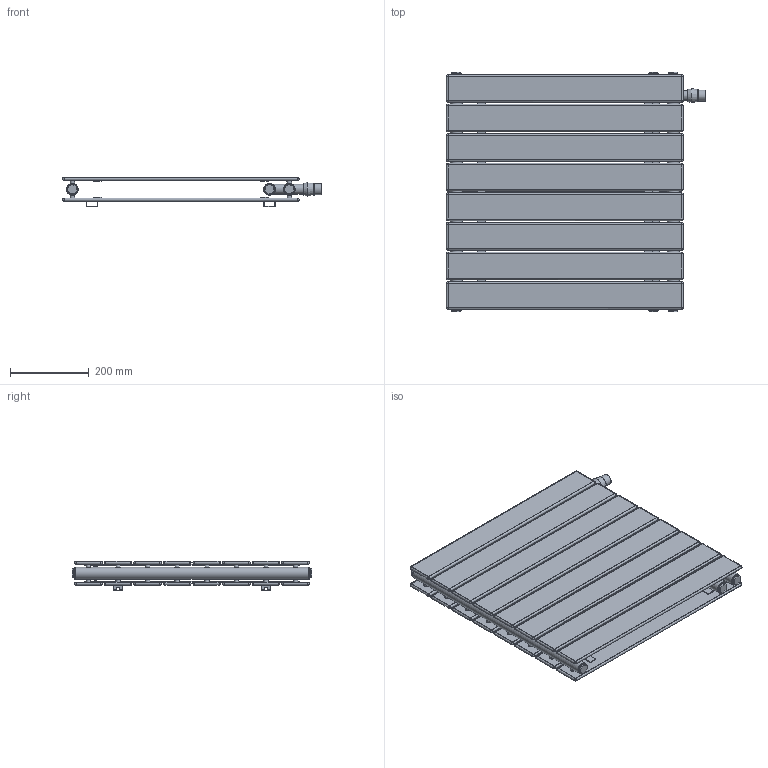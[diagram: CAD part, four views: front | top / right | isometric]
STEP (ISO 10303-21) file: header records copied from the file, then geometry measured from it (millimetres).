
FILE_DESCRIPTION(/* description */ (''),/* implementation_level */ '2;1');
FILE_NAME(/* name */ 'C:\Grzejniki\13DLUXRAD\pokojowe\NIAGARA\to\NIAGARA PODWÓJNA POZIOMA Z WKŁADKĄ TERMOSTATYCZNĄ 595x600.iam.stp',/* time_stamp */ '2016-06-28T17:33:49+02:00',/* author */ ('m.szydziak'),/* organization */ (''),/* preprocessor_version */ 'ST-DEVELOPER v16.5',/* originating_system */ 'Autodesk Inventor 2017',/* authorisation */ '');
FILE_SCHEMA (('AUTOMOTIVE_DESIGN { 1 0 10303 214 3 1 1 }'));
Length unit declared in the file: millimetre
Products named in the file (9): NIAGARA PODWÓJNA POZIOMA Z WKŁADKĄ TERMOSTA
TYCZNĄ 595x600; NIAGARA PODWÓJNA 600x595; 70x8x1,2x604; michałek; poprzeczka 545; ucho małe; fi30x1,5x595; Głowica Termostatyczna; korek
Assembly tree (67 placements, depth 3):
  NIAGARA PODWÓJNA POZIOMA Z WKŁADKĄ TERMOSTA
TYCZNĄ 595x600
    NIAGARA PODWÓJNA 600x595
      fi30x1,5x595  x2
      70x8x1,2x604  x16
      michałek  x32
      poprzeczka 545  x4
      ucho małe  x4
      korek  x4
    fi30x1,5x595
    Głowica Termostatyczna
    korek  x2
Bounding box: 656.85 x 607 x 75 mm (x, y, z)
Volume: 2144404.6 mm3; surface area: 3275178.5 mm2
Topology: 66 solids, 66 shells, 862 faces, 1903 edges, 1157 vertices
Faces by surface type: plane 388, cylinder 324, sphere 128, bspline 16, torus 4, cone 2
Full cylindrical faces by diameter (mm): 8 x32, 9 x32, 10 x32, 11.5 x32, 18.631 x6, 24 x6, 25 x1, 27 x3, 28 x1, 30 x3
Entity records: 4000 total; most frequent: CARTESIAN_POINT 935, DIRECTION 666, ORIENTED_EDGE 452, AXIS2_PLACEMENT_3D 271, EDGE_CURVE 226, VERTEX_POINT 150, EDGE_LOOP 142, LINE 124
